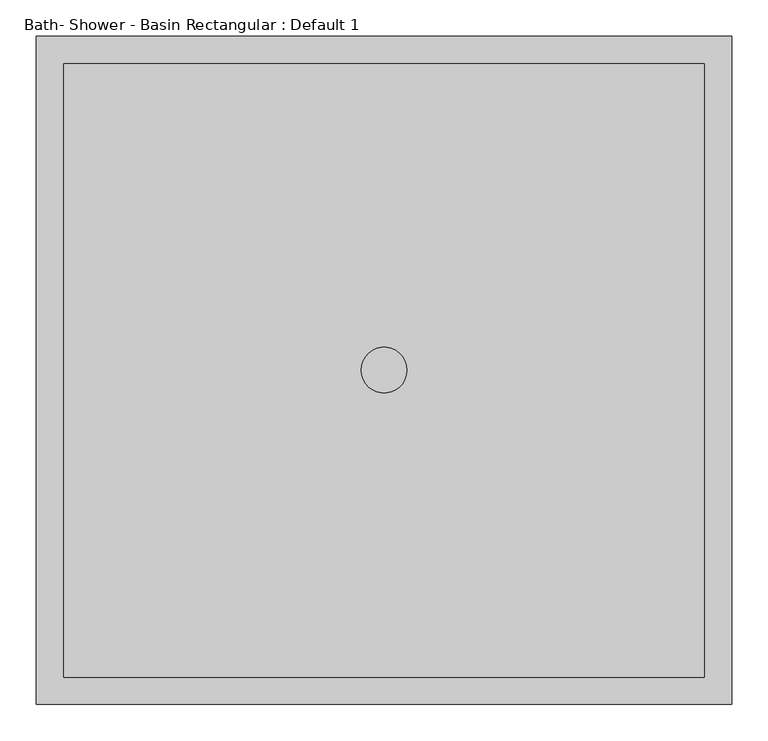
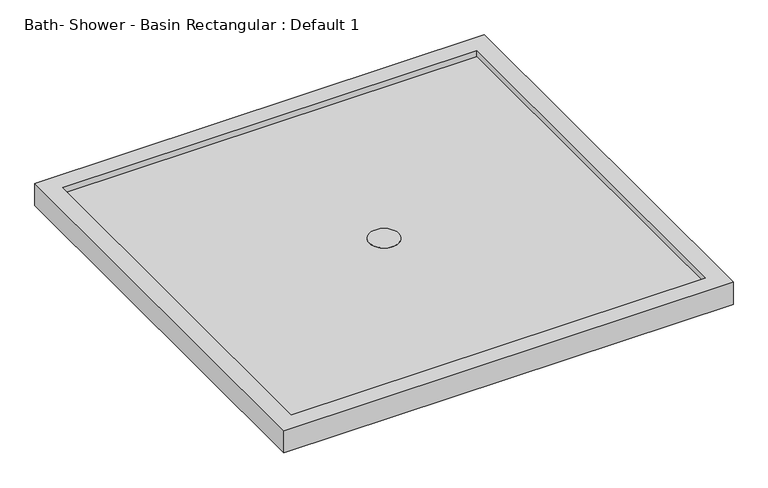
"""IFC4 building model written with IfcOpenShell, lengths in millimetres: flow terminal geometry, Bath- Shower - Basin Rectangular : Default 1."""

from ifc_helpers import new_model, si_unit, point, frame_2d, origin, origin_with_axes, place, context, project, spatial, circle_curve, trimmed, segment, composite_curve, outline, extrude, faceted_brep, source, transform, mapped, element, save


def bath_shower_basin_rectangular_default_1_36745686(model_context):
    return source(origin(), model_context, "Body", "SolidModel", [
        extrude(outline(composite_curve([segment(trimmed(circle_curve(frame_2d((0.1, 0.15)), 31.75), [point((-31.65, 0.15))], [point((31.85, 0.15))], False, "CARTESIAN"), True, "CONTINUOUS"), segment(trimmed(circle_curve(frame_2d((0.1, 0.15)), 31.75), [point((31.85, 0.15))], [point((-31.65, 0.15))], False, "CARTESIAN"), True, "CONTINUOUS")], self_intersect=False)), origin_with_axes(), (0.0, 0.0, 1.0), 38.1),
        faceted_brep([(482.6, 463.55, 50.8), (-482.6, 463.55, 50.8), (-482.6, -463.55, 50.8), (482.6, -463.55, 50.8), (-444.5, 425.45, 50.8), (444.5, 425.45, 50.8), (444.5, -425.45, 50.8), (-444.5, -425.45, 50.8), (482.6, 463.55, 0.0), (482.6, -463.55, 0.0), (-482.6, -463.55, 0.0), (-482.6, 463.55, 0.0), (444.5, 425.45, 38.1), (-444.5, 425.45, 38.1), (-444.5, -425.45, 38.1), (444.5, -425.45, 38.1)], [[[0, 1, 2, 3], [4, 5, 6, 7]], [[8, 9, 10, 11]], [[1, 0, 8, 11]], [[2, 1, 11, 10]], [[3, 2, 10, 9]], [[0, 3, 9, 8]], [[12, 13, 14, 15]], [[13, 12, 5, 4]], [[14, 13, 4, 7]], [[15, 14, 7, 6]], [[12, 15, 6, 5]]]),
    ])


if __name__ == "__main__":
    model = new_model("IFC4")
    model_context = context("Model", 3, world=origin())
    ifc_project = project(units=[si_unit("LENGTHUNIT", "METRE", prefix="MILLI")], contexts=[model_context])
    site = spatial("IfcSite", under=ifc_project)
    building = spatial("IfcBuilding", under=site)
    placement = place(None, origin())
    bath_shower_basin_rectangular_default_1_shape = bath_shower_basin_rectangular_default_1_36745686(model_context)
    element("IfcFlowTerminal", 1, ObjectType="Bath- Shower - Basin Rectangular : Default 1", at=placement, inside=building, context=model_context, shape_type="MappedRepresentation", body=[
        mapped(bath_shower_basin_rectangular_default_1_shape, transform((0.0, 0.0, 0.0), x_axis=(1.0, 0.0, 0.0), y_axis=(0.0, 1.0, 0.0), z_axis=(0.0, 0.0, 1.0))),
    ])
    save(model, "model.ifc")
